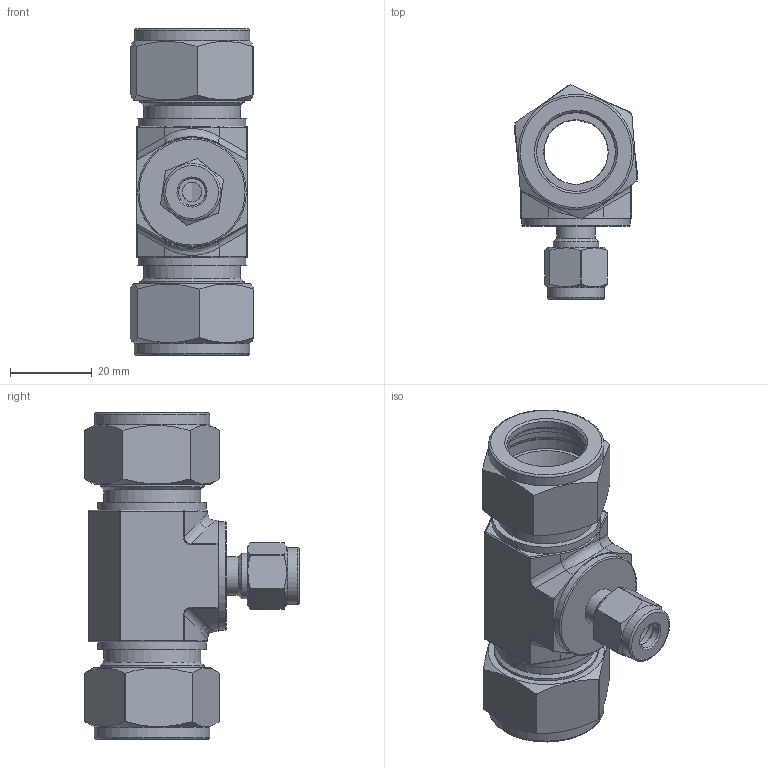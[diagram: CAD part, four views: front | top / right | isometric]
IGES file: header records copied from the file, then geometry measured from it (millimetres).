
Global section: file name: No Iges File Name specified; native system: Autodesk Inventor 2012; preprocessor: AutoDesk Inventor Iges Exporter R2012; author: 硅己绕,,1; organization: 1; date: 20150505.151241; units: millimetre
Bounding box: 30.26 x 52.39 x 79.78 mm (x, y, z)
Volume: 32387.8 mm3; surface area: 19020.8 mm2
Topology: 4 solids, 4 shells, 200 faces, 442 edges, 265 vertices
Faces by surface type: plane 64, cylinder 64, revolution 35, cone 12, sphere 10, torus 9, bspline 6
Full cylindrical faces by diameter (mm): 9.3 x1, 9.4 x1, 11.1 x1, 13.9 x1, 23.7 x2, 23.8 x2, 25.4 x2, 26.5 x3, 28.2 x2
